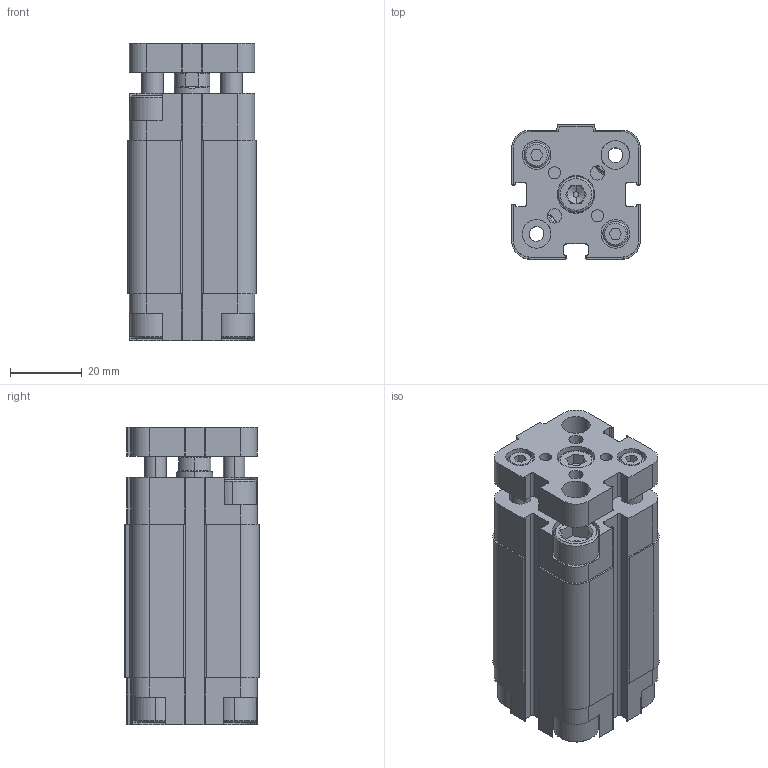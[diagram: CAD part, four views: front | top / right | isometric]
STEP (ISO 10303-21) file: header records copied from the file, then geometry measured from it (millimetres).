
FILE_DESCRIPTION (( 'STEP AP203' ), '1' );
FILE_NAME ('WFA0200030A.step', '2013-04-20T09:42:55', ( '' ), ( '' ), 'SwSTEP 2.0', 'SolidWorks 2012', '' );
FILE_SCHEMA (( 'CONFIG_CONTROL_DESIGN' ));
Length unit declared in the file: millimetre
Products named in the file (1): WFA0200030A
Bounding box: 36 x 37.5 x 82.95 mm (x, y, z)
Volume: 81541.7 mm3; surface area: 27808.3 mm2
Topology: 1 solids, 1 shells, 447 faces, 1161 edges, 752 vertices
Faces by surface type: plane 221, cylinder 175, cone 49, torus 2
Entity records: 14220 total; most frequent: CARTESIAN_POINT 2888, DIRECTION 2413, ORIENTED_EDGE 2322, EDGE_CURVE 1161, AXIS2_PLACEMENT_3D 863, VERTEX_POINT 752, VECTOR 687, LINE 687
